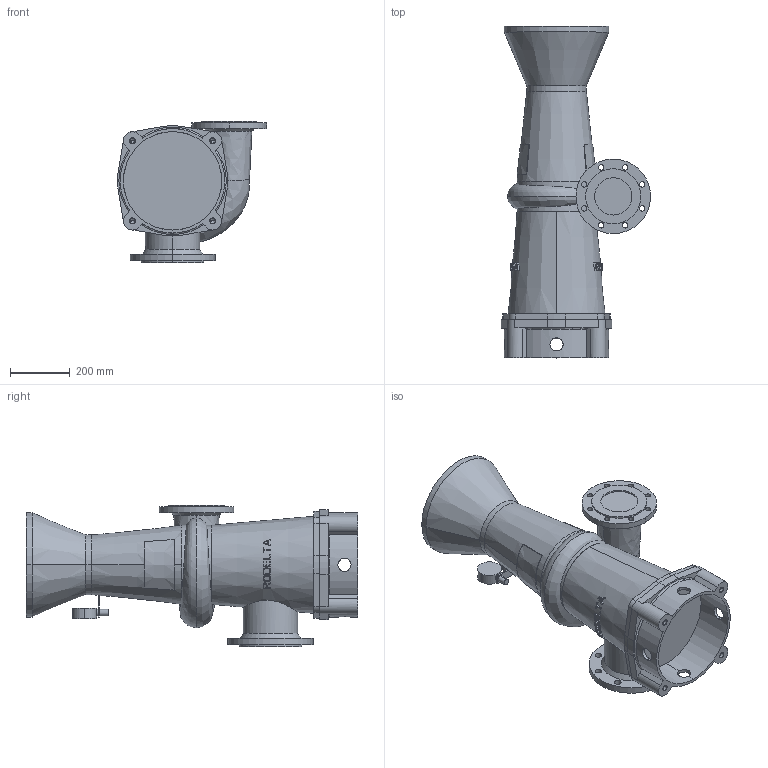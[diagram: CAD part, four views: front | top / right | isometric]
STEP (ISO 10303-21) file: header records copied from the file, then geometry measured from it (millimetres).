
FILE_DESCRIPTION((''),'2;1');
FILE_NAME('NS6210_ASM','2024-07-17T',('Lyritlocal'),(''),'PRO/ENGINEER BY PARAMETRIC TECHNOLOGY CORPORATION, 2016360','PRO/ENGINEER BY PARAMETRIC TECHNOLOGY CORPORATION, 2016360','');
FILE_SCHEMA(('CONFIG_CONTROL_DESIGN'));
Length unit declared in the file: millimetre
Products named in the file (3): 6210_VOET; 6210; NS6210_ASM
Assembly tree (2 placements, depth 2):
  NS6210_ASM
    6210_VOET
    6210
Bounding box: 499.71 x 1112 x 475 mm (x, y, z)
Volume: 73509644.5 mm3; surface area: 2060130 mm2
Topology: 2 solids, 6 shells, 517 faces, 1386 edges, 915 vertices
Faces by surface type: plane 342, cylinder 125, cone 40, bspline 6, torus 4
Entity records: 18499 total; most frequent: CARTESIAN_POINT 5977, ORIENTED_EDGE 2740, DIRECTION 2341, EDGE_CURVE 1378, VERTEX_POINT 915, AXIS2_PLACEMENT_3D 908, EDGE_LOOP 607, VECTOR 525
